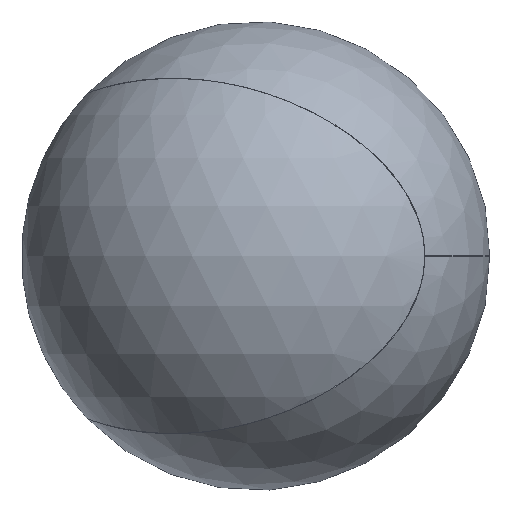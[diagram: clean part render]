
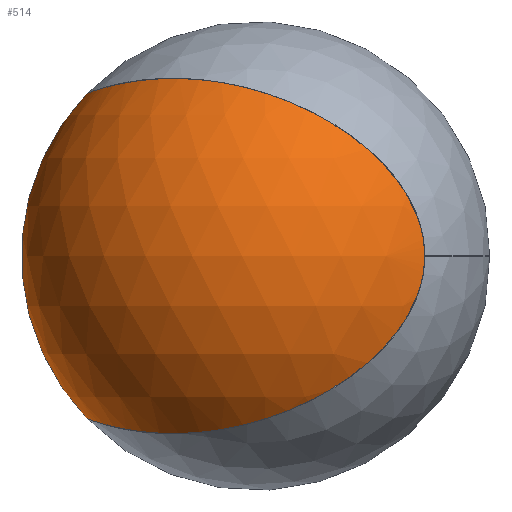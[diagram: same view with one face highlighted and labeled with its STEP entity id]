
A CAD part, front view. The second image highlights one B-rep face of the part: STEP entity #514.
In plain terms, the highlighted spherical face has radius 25 mm.
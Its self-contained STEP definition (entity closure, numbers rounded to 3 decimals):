
#372=CARTESIAN_POINT('',(18.0,17.349,0.));
#373=VERTEX_POINT('',#372);
#388=CARTESIAN_POINT('',(-18.0,0.0,-17.349));
#389=VERTEX_POINT('',#388);
#402=CARTESIAN_POINT('',(-18.,0.,-17.349));
#403=CARTESIAN_POINT('',(-18.,1.379,-17.349));
#404=CARTESIAN_POINT('',(-17.757,2.718,-17.441));
#405=CARTESIAN_POINT('',(-17.307,4.007,-17.59));
#406=CARTESIAN_POINT('',(-17.043,4.762,-17.678));
#407=CARTESIAN_POINT('',(-16.711,5.493,-17.783));
#408=CARTESIAN_POINT('',(-16.324,6.192,-17.894));
#409=CARTESIAN_POINT('',(-15.893,6.971,-18.017));
#410=CARTESIAN_POINT('',(-15.393,7.714,-18.148));
#411=CARTESIAN_POINT('',(-14.842,8.417,-18.272));
#412=CARTESIAN_POINT('',(-14.477,8.883,-18.354));
#413=CARTESIAN_POINT('',(-14.089,9.334,-18.433));
#414=CARTESIAN_POINT('',(-13.671,9.777,-18.507));
#415=CARTESIAN_POINT('',(-12.501,11.02,-18.715));
#416=CARTESIAN_POINT('',(-11.119,12.186,-18.88));
#417=CARTESIAN_POINT('',(-9.553,13.253,-18.923));
#418=CARTESIAN_POINT('',(-8.847,13.734,-18.943));
#419=CARTESIAN_POINT('',(-8.1,14.196,-18.937));
#420=CARTESIAN_POINT('',(-7.34,14.623,-18.902));
#421=CARTESIAN_POINT('',(-5.649,15.575,-18.822));
#422=CARTESIAN_POINT('',(-3.882,16.368,-18.596));
#423=CARTESIAN_POINT('',(-2.088,17.007,-18.204));
#424=CARTESIAN_POINT('',(-0.517,17.567,-17.862));
#425=CARTESIAN_POINT('',(1.08,18.008,-17.391));
#426=CARTESIAN_POINT('',(2.646,18.323,-16.8));
#427=CARTESIAN_POINT('',(4.726,18.743,-16.015));
#428=CARTESIAN_POINT('',(6.76,18.944,-15.018));
#429=CARTESIAN_POINT('',(8.668,18.958,-13.801));
#430=CARTESIAN_POINT('',(9.186,18.962,-13.471));
#431=CARTESIAN_POINT('',(9.686,18.952,-13.129));
#432=CARTESIAN_POINT('',(10.167,18.93,-12.778));
#433=CARTESIAN_POINT('',(12.181,18.841,-11.308));
#434=CARTESIAN_POINT('',(13.861,18.552,-9.67));
#435=CARTESIAN_POINT('',(15.15,18.241,-7.922));
#436=CARTESIAN_POINT('',(16.053,18.023,-6.696));
#437=CARTESIAN_POINT('',(16.765,17.794,-5.414));
#438=CARTESIAN_POINT('',(17.251,17.624,-4.099));
#439=CARTESIAN_POINT('',(17.558,17.517,-3.266));
#440=CARTESIAN_POINT('',(17.776,17.434,-2.417));
#441=CARTESIAN_POINT('',(17.896,17.389,-1.54));
#442=CARTESIAN_POINT('',(17.965,17.363,-1.031));
#443=CARTESIAN_POINT('',(18.0,17.349,-0.515));
#444=CARTESIAN_POINT('',(18.0,17.349,0.));
#445=B_SPLINE_CURVE_WITH_KNOTS('',3,(#402,#403,#404,#405,#406,#407,#408,#409,#410,#411,#412,#413,#414,#415,#416,#417,#418,#419,#420,#421,#422,#423,#424,#425,#426,#427,#428,#429,#430,#431,#432,#433,#434,#435,#436,#437,#438,#439,#440,#441,#442,#443,#444),.UNSPECIFIED.,.F.,.U.,(4,3,3,3,3,3,3,3,3,3,3,3,3,3,4),(0.0,0.414,0.656,0.926,1.105,1.607,1.833,2.336,2.777,3.363,3.522,4.187,4.654,4.949,5.12),.UNSPECIFIED.);
#446=EDGE_CURVE('',#389,#373,#445,.T.);
#451=CARTESIAN_POINT('',(0.0,0.0,0.0));
#452=DIRECTION('',(0.0,0.0,1.0));
#453=DIRECTION('',(1.0,0.0,0.0));
#454=AXIS2_PLACEMENT_3D('',#451,#452,#453);
#455=SPHERICAL_SURFACE('',#454,25.0);
#456=CARTESIAN_POINT('',(-18.0,0.0,17.349));
#457=VERTEX_POINT('',#456);
#458=CARTESIAN_POINT('',(0.,0.,0.));
#459=DIRECTION('',(0.0,-1.0,0.0));
#460=DIRECTION('',(0.0,0.0,-1.0));
#461=AXIS2_PLACEMENT_3D('',#458,#459,#460);
#462=CIRCLE('',#461,25.0);
#463=EDGE_CURVE('',#389,#457,#462,.F.);
#464=ORIENTED_EDGE('',*,*,#463,.T.);
#465=CARTESIAN_POINT('',(-18.,0.,17.349));
#466=CARTESIAN_POINT('',(-18.,1.379,17.349));
#467=CARTESIAN_POINT('',(-17.757,2.718,17.441));
#468=CARTESIAN_POINT('',(-17.307,4.007,17.59));
#469=CARTESIAN_POINT('',(-17.043,4.762,17.678));
#470=CARTESIAN_POINT('',(-16.711,5.493,17.783));
#471=CARTESIAN_POINT('',(-16.324,6.192,17.894));
#472=CARTESIAN_POINT('',(-15.893,6.971,18.017));
#473=CARTESIAN_POINT('',(-15.393,7.714,18.148));
#474=CARTESIAN_POINT('',(-14.842,8.417,18.272));
#475=CARTESIAN_POINT('',(-14.477,8.883,18.354));
#476=CARTESIAN_POINT('',(-14.089,9.334,18.433));
#477=CARTESIAN_POINT('',(-13.671,9.777,18.507));
#478=CARTESIAN_POINT('',(-12.501,11.02,18.715));
#479=CARTESIAN_POINT('',(-11.119,12.186,18.88));
#480=CARTESIAN_POINT('',(-9.553,13.253,18.923));
#481=CARTESIAN_POINT('',(-8.847,13.734,18.943));
#482=CARTESIAN_POINT('',(-8.1,14.196,18.937));
#483=CARTESIAN_POINT('',(-7.34,14.623,18.902));
#484=CARTESIAN_POINT('',(-5.649,15.575,18.822));
#485=CARTESIAN_POINT('',(-3.882,16.368,18.596));
#486=CARTESIAN_POINT('',(-2.088,17.007,18.204));
#487=CARTESIAN_POINT('',(-0.517,17.567,17.862));
#488=CARTESIAN_POINT('',(1.08,18.008,17.391));
#489=CARTESIAN_POINT('',(2.646,18.323,16.8));
#490=CARTESIAN_POINT('',(4.726,18.743,16.015));
#491=CARTESIAN_POINT('',(6.76,18.944,15.018));
#492=CARTESIAN_POINT('',(8.668,18.958,13.801));
#493=CARTESIAN_POINT('',(9.186,18.962,13.471));
#494=CARTESIAN_POINT('',(9.686,18.952,13.129));
#495=CARTESIAN_POINT('',(10.167,18.93,12.778));
#496=CARTESIAN_POINT('',(12.181,18.841,11.308));
#497=CARTESIAN_POINT('',(13.861,18.552,9.67));
#498=CARTESIAN_POINT('',(15.15,18.241,7.922));
#499=CARTESIAN_POINT('',(16.053,18.023,6.696));
#500=CARTESIAN_POINT('',(16.765,17.794,5.414));
#501=CARTESIAN_POINT('',(17.251,17.624,4.099));
#502=CARTESIAN_POINT('',(17.558,17.517,3.266));
#503=CARTESIAN_POINT('',(17.776,17.434,2.417));
#504=CARTESIAN_POINT('',(17.896,17.389,1.54));
#505=CARTESIAN_POINT('',(17.965,17.363,1.031));
#506=CARTESIAN_POINT('',(18.0,17.349,0.515));
#507=CARTESIAN_POINT('',(18.0,17.349,0.));
#508=B_SPLINE_CURVE_WITH_KNOTS('',3,(#465,#466,#467,#468,#469,#470,#471,#472,#473,#474,#475,#476,#477,#478,#479,#480,#481,#482,#483,#484,#485,#486,#487,#488,#489,#490,#491,#492,#493,#494,#495,#496,#497,#498,#499,#500,#501,#502,#503,#504,#505,#506,#507),.UNSPECIFIED.,.F.,.U.,(4,3,3,3,3,3,3,3,3,3,3,3,3,3,4),(0.0,0.414,0.656,0.926,1.105,1.607,1.833,2.336,2.777,3.363,3.522,4.187,4.654,4.949,5.12),.UNSPECIFIED.);
#509=EDGE_CURVE('',#457,#373,#508,.T.);
#510=ORIENTED_EDGE('',*,*,#509,.T.);
#511=ORIENTED_EDGE('',*,*,#446,.F.);
#512=EDGE_LOOP('',(#464,#510,#511));
#513=FACE_OUTER_BOUND('',#512,.T.);
#514=ADVANCED_FACE('',(#513),#455,.T.);
